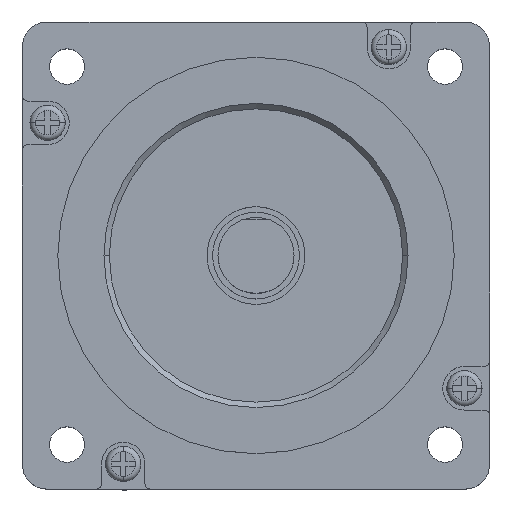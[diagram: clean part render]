
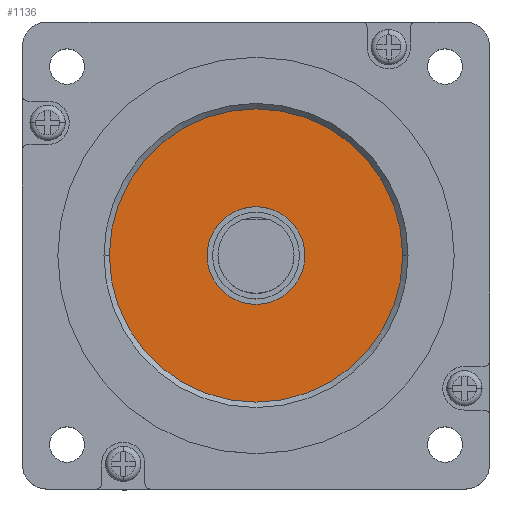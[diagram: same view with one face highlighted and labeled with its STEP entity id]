
A CAD part, top view. The second image highlights one B-rep face of the part: STEP entity #1136.
In plain terms, the highlighted planar face has unit normal (0, 0, 1).
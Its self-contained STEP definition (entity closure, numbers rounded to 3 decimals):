
#109 = CARTESIAN_POINT ( 'NONE',  ( -9., 0., 10.6 ) ) ;
#162 = ORIENTED_EDGE ( 'NONE', *, *, #4587, .T. ) ;
#220 = CARTESIAN_POINT ( 'NONE',  ( 0., 0., 10.6 ) ) ;
#386 = ORIENTED_EDGE ( 'NONE', *, *, #7734, .T. ) ;
#443 = CIRCLE ( 'NONE', #2336, 27. ) ;
#804 = CARTESIAN_POINT ( 'NONE',  ( 0., 0., 10.6 ) ) ;
#900 = CARTESIAN_POINT ( 'NONE',  ( 27., 0., 10.6 ) ) ;
#972 = DIRECTION ( 'NONE',  ( 1., 0., 0. ) ) ;
#1136 = ADVANCED_FACE ( 'NONE', ( #3862, #2106 ), #5725, .T. ) ;
#1159 = EDGE_LOOP ( 'NONE', ( #1411, #2772 ) ) ;
#1181 = AXIS2_PLACEMENT_3D ( 'NONE', #6072, #8050, #6757 ) ;
#1411 = ORIENTED_EDGE ( 'NONE', *, *, #1524, .T. ) ;
#1447 = DIRECTION ( 'NONE',  ( 0., 0., -1. ) ) ;
#1520 = EDGE_LOOP ( 'NONE', ( #386, #162 ) ) ;
#1524 = EDGE_CURVE ( 'NONE', #4760, #4475, #1575, .T. ) ;
#1561 = CARTESIAN_POINT ( 'NONE',  ( -27., 0., 10.6 ) ) ;
#1575 = CIRCLE ( 'NONE', #3804, 9. ) ;
#1579 = CARTESIAN_POINT ( 'NONE',  ( 9., 0., 10.6 ) ) ;
#1587 = DIRECTION ( 'NONE',  ( 0., 0., 1. ) ) ;
#1649 = VERTEX_POINT ( 'NONE', #1561 ) ;
#1746 = DIRECTION ( 'NONE',  ( 1., 0., 0. ) ) ;
#2106 = FACE_BOUND ( 'NONE', #1159, .T. ) ;
#2144 = CIRCLE ( 'NONE', #5498, 27. ) ;
#2184 = DIRECTION ( 'NONE',  ( 1., 0., 0. ) ) ;
#2214 = CARTESIAN_POINT ( 'NONE',  ( 0., 0., 10.6 ) ) ;
#2336 = AXIS2_PLACEMENT_3D ( 'NONE', #220, #1587, #972 ) ;
#2772 = ORIENTED_EDGE ( 'NONE', *, *, #4163, .T. ) ;
#3052 = CARTESIAN_POINT ( 'NONE',  ( 0., 0., 10.6 ) ) ;
#3133 = AXIS2_PLACEMENT_3D ( 'NONE', #3052, #6387, #1746 ) ;
#3804 = AXIS2_PLACEMENT_3D ( 'NONE', #804, #1447, #7405 ) ;
#3806 = CIRCLE ( 'NONE', #1181, 9. ) ;
#3862 = FACE_OUTER_BOUND ( 'NONE', #1520, .T. ) ;
#4163 = EDGE_CURVE ( 'NONE', #4475, #4760, #3806, .T. ) ;
#4475 = VERTEX_POINT ( 'NONE', #109 ) ;
#4587 = EDGE_CURVE ( 'NONE', #1649, #8268, #2144, .T. ) ;
#4760 = VERTEX_POINT ( 'NONE', #1579 ) ;
#5498 = AXIS2_PLACEMENT_3D ( 'NONE', #2214, #6790, #2184 ) ;
#5725 = PLANE ( 'NONE',  #3133 ) ;
#6072 = CARTESIAN_POINT ( 'NONE',  ( 0., 0., 10.6 ) ) ;
#6387 = DIRECTION ( 'NONE',  ( 0., 0., 1. ) ) ;
#6757 = DIRECTION ( 'NONE',  ( 1., 0., 0. ) ) ;
#6790 = DIRECTION ( 'NONE',  ( 0., 0., 1. ) ) ;
#7405 = DIRECTION ( 'NONE',  ( 1., 0., 0. ) ) ;
#7734 = EDGE_CURVE ( 'NONE', #8268, #1649, #443, .T. ) ;
#8050 = DIRECTION ( 'NONE',  ( 0., 0., -1. ) ) ;
#8268 = VERTEX_POINT ( 'NONE', #900 ) ;
